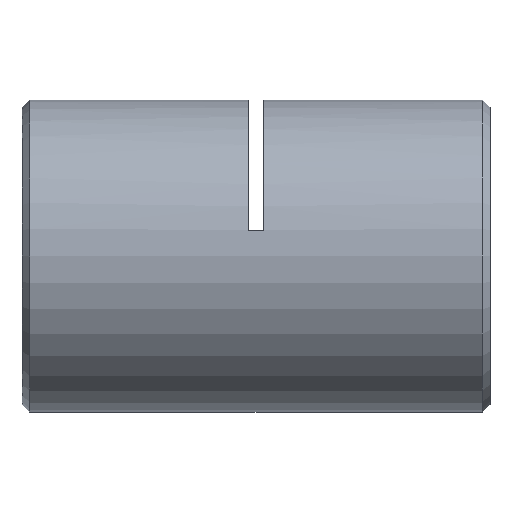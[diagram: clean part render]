
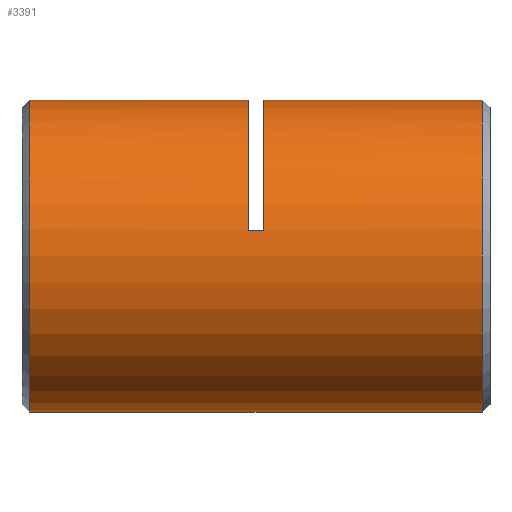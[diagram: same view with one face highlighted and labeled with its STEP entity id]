
A CAD part, left-side view. The second image highlights one B-rep face of the part: STEP entity #3391.
In plain terms, the highlighted cylindrical face has radius 10 mm (diameter 20 mm), a partial arc.
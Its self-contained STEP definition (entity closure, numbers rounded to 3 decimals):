
#75 = CARTESIAN_POINT ( 'NONE',  ( -9.86, 15.75, 1.667 ) ) ;
#241 = CYLINDRICAL_SURFACE ( 'NONE', #1952, 10. ) ;
#348 = ORIENTED_EDGE ( 'NONE', *, *, #1023, .T. ) ;
#377 = CARTESIAN_POINT ( 'NONE',  ( 0., 0., 10. ) ) ;
#412 = DIRECTION ( 'NONE',  ( 0., 1., 0. ) ) ;
#421 = LINE ( 'NONE', #2201, #3360 ) ;
#465 = EDGE_CURVE ( 'NONE', #1541, #719, #4200, .T. ) ;
#497 = CIRCLE ( 'NONE', #2729, 10. ) ;
#585 = DIRECTION ( 'NONE',  ( 0., 0., 1. ) ) ;
#632 = CARTESIAN_POINT ( 'NONE',  ( 0., 14.75, 0. ) ) ;
#651 = CARTESIAN_POINT ( 'NONE',  ( 0., 0.75, 10. ) ) ;
#714 = EDGE_CURVE ( 'NONE', #4135, #4692, #3729, .T. ) ;
#719 = VERTEX_POINT ( 'NONE', #651 ) ;
#759 = DIRECTION ( 'NONE',  ( 0., 1., 0. ) ) ;
#852 = CARTESIAN_POINT ( 'NONE',  ( 0., 29.75, 0. ) ) ;
#1023 = EDGE_CURVE ( 'NONE', #3638, #4465, #4603, .T. ) ;
#1035 = ORIENTED_EDGE ( 'NONE', *, *, #1905, .T. ) ;
#1217 = CARTESIAN_POINT ( 'NONE',  ( -9.86, 14.75, 1.667 ) ) ;
#1290 = AXIS2_PLACEMENT_3D ( 'NONE', #852, #5403, #2021 ) ;
#1528 = EDGE_LOOP ( 'NONE', ( #3875, #4263, #5500, #5374, #2803, #1035, #2312, #348 ) ) ;
#1541 = VERTEX_POINT ( 'NONE', #3996 ) ;
#1630 = DIRECTION ( 'NONE',  ( 0., 0., 1. ) ) ;
#1905 = EDGE_CURVE ( 'NONE', #3637, #2974, #497, .T. ) ;
#1952 = AXIS2_PLACEMENT_3D ( 'NONE', #2040, #3811, #1630 ) ;
#1978 = CARTESIAN_POINT ( 'NONE',  ( 0., 15.75, 0. ) ) ;
#2021 = DIRECTION ( 'NONE',  ( 0., 0., -1. ) ) ;
#2040 = CARTESIAN_POINT ( 'NONE',  ( 0., 0., 0. ) ) ;
#2186 = CARTESIAN_POINT ( 'NONE',  ( 0., 0., 10. ) ) ;
#2190 = VECTOR ( 'NONE', #3086, 1000. ) ;
#2201 = CARTESIAN_POINT ( 'NONE',  ( 0., 0., -10. ) ) ;
#2299 = CARTESIAN_POINT ( 'NONE',  ( 0., 0.75, 0. ) ) ;
#2312 = ORIENTED_EDGE ( 'NONE', *, *, #5294, .T. ) ;
#2461 = CARTESIAN_POINT ( 'NONE',  ( -9.86, 15.25, 1.667 ) ) ;
#2675 = LINE ( 'NONE', #2186, #2190 ) ;
#2729 = AXIS2_PLACEMENT_3D ( 'NONE', #1978, #2870, #5029 ) ;
#2803 = ORIENTED_EDGE ( 'NONE', *, *, #5003, .T. ) ;
#2870 = DIRECTION ( 'NONE',  ( 0., 1., 0. ) ) ;
#2896 = DIRECTION ( 'NONE',  ( 0., 1., 0. ) ) ;
#2974 = VERTEX_POINT ( 'NONE', #3966 ) ;
#2985 = CARTESIAN_POINT ( 'NONE',  ( 0., 14.75, 10. ) ) ;
#3002 = EDGE_CURVE ( 'NONE', #1541, #4465, #421, .T. ) ;
#3082 = AXIS2_PLACEMENT_3D ( 'NONE', #632, #4555, #4093 ) ;
#3086 = DIRECTION ( 'NONE',  ( 0., 1., 0. ) ) ;
#3101 = CARTESIAN_POINT ( 'NONE',  ( 0., 29.75, 10. ) ) ;
#3360 = VECTOR ( 'NONE', #412, 1000. ) ;
#3391 = ADVANCED_FACE ( 'NONE', ( #5065 ), #241, .T. ) ;
#3462 = AXIS2_PLACEMENT_3D ( 'NONE', #2299, #3614, #585 ) ;
#3614 = DIRECTION ( 'NONE',  ( 0., 1., 0. ) ) ;
#3637 = VERTEX_POINT ( 'NONE', #75 ) ;
#3638 = VERTEX_POINT ( 'NONE', #3101 ) ;
#3704 = VECTOR ( 'NONE', #2896, 1000. ) ;
#3729 = CIRCLE ( 'NONE', #3082, 10. ) ;
#3802 = CARTESIAN_POINT ( 'NONE',  ( 0., 29.75, -10. ) ) ;
#3811 = DIRECTION ( 'NONE',  ( 0., 1., 0. ) ) ;
#3875 = ORIENTED_EDGE ( 'NONE', *, *, #3002, .F. ) ;
#3966 = CARTESIAN_POINT ( 'NONE',  ( 0., 15.75, 10. ) ) ;
#3996 = CARTESIAN_POINT ( 'NONE',  ( 0., 0.75, -10. ) ) ;
#4093 = DIRECTION ( 'NONE',  ( 0., 0., 1. ) ) ;
#4135 = VERTEX_POINT ( 'NONE', #1217 ) ;
#4200 = CIRCLE ( 'NONE', #3462, 10. ) ;
#4263 = ORIENTED_EDGE ( 'NONE', *, *, #465, .T. ) ;
#4465 = VERTEX_POINT ( 'NONE', #3802 ) ;
#4519 = LINE ( 'NONE', #2461, #3704 ) ;
#4555 = DIRECTION ( 'NONE',  ( 0., 1., 0. ) ) ;
#4580 = VECTOR ( 'NONE', #759, 1000. ) ;
#4603 = CIRCLE ( 'NONE', #1290, 10. ) ;
#4692 = VERTEX_POINT ( 'NONE', #2985 ) ;
#4997 = LINE ( 'NONE', #377, #4580 ) ;
#5003 = EDGE_CURVE ( 'NONE', #4135, #3637, #4519, .T. ) ;
#5029 = DIRECTION ( 'NONE',  ( 0., 0., 1. ) ) ;
#5049 = EDGE_CURVE ( 'NONE', #719, #4692, #4997, .T. ) ;
#5065 = FACE_OUTER_BOUND ( 'NONE', #1528, .T. ) ;
#5294 = EDGE_CURVE ( 'NONE', #2974, #3638, #2675, .T. ) ;
#5374 = ORIENTED_EDGE ( 'NONE', *, *, #714, .F. ) ;
#5403 = DIRECTION ( 'NONE',  ( 0., -1., 0. ) ) ;
#5500 = ORIENTED_EDGE ( 'NONE', *, *, #5049, .T. ) ;
